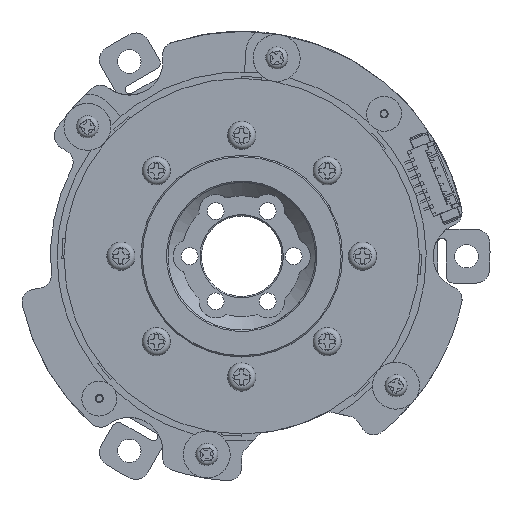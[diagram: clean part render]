
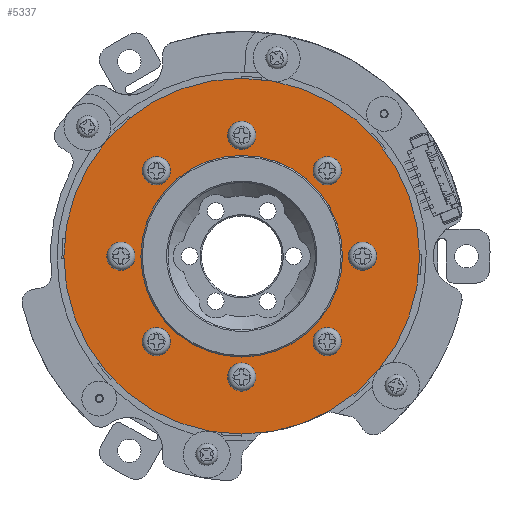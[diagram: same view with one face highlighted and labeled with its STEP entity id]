
A CAD part, left-side view. The second image highlights one B-rep face of the part: STEP entity #5337.
In plain terms, the highlighted planar face has unit normal (-1, 0, 0).
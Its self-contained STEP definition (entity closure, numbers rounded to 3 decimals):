
#5337=ADVANCED_FACE('',(#9458,#9459,#9460,#9461,#9462,#9463,#9464,#9465,
#9466,#9467),#6679,.T.);
#6679=PLANE('',#42326);
#7875=CIRCLE('',#42315,1.5);
#7876=CIRCLE('',#42317,26.5);
#7877=CIRCLE('',#42318,1.5);
#7878=CIRCLE('',#42319,1.5);
#7879=CIRCLE('',#42320,1.5);
#7880=CIRCLE('',#42321,1.5);
#7881=CIRCLE('',#42322,1.5);
#7882=CIRCLE('',#42323,1.5);
#7883=CIRCLE('',#42324,1.5);
#7884=CIRCLE('',#42325,15.02);
#9458=FACE_BOUND('',#11983,.T.);
#9459=FACE_BOUND('',#11984,.T.);
#9460=FACE_BOUND('',#11985,.T.);
#9461=FACE_BOUND('',#11986,.T.);
#9462=FACE_BOUND('',#11987,.T.);
#9463=FACE_BOUND('',#11988,.T.);
#9464=FACE_BOUND('',#11989,.T.);
#9465=FACE_BOUND('',#11990,.T.);
#9466=FACE_BOUND('',#11991,.T.);
#9467=FACE_BOUND('',#11992,.T.);
#11983=EDGE_LOOP('',(#22169));
#11984=EDGE_LOOP('',(#22170));
#11985=EDGE_LOOP('',(#22171));
#11986=EDGE_LOOP('',(#22172));
#11987=EDGE_LOOP('',(#22173));
#11988=EDGE_LOOP('',(#22174));
#11989=EDGE_LOOP('',(#22175));
#11990=EDGE_LOOP('',(#22176));
#11991=EDGE_LOOP('',(#22177));
#11992=EDGE_LOOP('',(#22178));
#22169=ORIENTED_EDGE('',*,*,#31874,.T.);
#22170=ORIENTED_EDGE('',*,*,#31875,.T.);
#22171=ORIENTED_EDGE('',*,*,#31876,.T.);
#22172=ORIENTED_EDGE('',*,*,#31877,.T.);
#22173=ORIENTED_EDGE('',*,*,#31878,.T.);
#22174=ORIENTED_EDGE('',*,*,#31879,.T.);
#22175=ORIENTED_EDGE('',*,*,#31880,.T.);
#22176=ORIENTED_EDGE('',*,*,#31881,.T.);
#22177=ORIENTED_EDGE('',*,*,#31873,.T.);
#22178=ORIENTED_EDGE('',*,*,#31882,.T.);
#26553=VERTEX_POINT('',#72578);
#26554=VERTEX_POINT('',#72581);
#26555=VERTEX_POINT('',#72583);
#26556=VERTEX_POINT('',#72585);
#26557=VERTEX_POINT('',#72587);
#26558=VERTEX_POINT('',#72589);
#26559=VERTEX_POINT('',#72591);
#26560=VERTEX_POINT('',#72593);
#26561=VERTEX_POINT('',#72595);
#26562=VERTEX_POINT('',#72597);
#31873=EDGE_CURVE('',#26553,#26553,#7875,.T.);
#31874=EDGE_CURVE('',#26554,#26554,#7876,.T.);
#31875=EDGE_CURVE('',#26555,#26555,#7877,.T.);
#31876=EDGE_CURVE('',#26556,#26556,#7878,.T.);
#31877=EDGE_CURVE('',#26557,#26557,#7879,.T.);
#31878=EDGE_CURVE('',#26558,#26558,#7880,.T.);
#31879=EDGE_CURVE('',#26559,#26559,#7881,.T.);
#31880=EDGE_CURVE('',#26560,#26560,#7882,.T.);
#31881=EDGE_CURVE('',#26561,#26561,#7883,.T.);
#31882=EDGE_CURVE('',#26562,#26562,#7884,.T.);
#42315=AXIS2_PLACEMENT_3D('',#72577,#51764,#51765);
#42317=AXIS2_PLACEMENT_3D('',#72580,#51768,#51769);
#42318=AXIS2_PLACEMENT_3D('',#72582,#51770,#51771);
#42319=AXIS2_PLACEMENT_3D('',#72584,#51772,#51773);
#42320=AXIS2_PLACEMENT_3D('',#72586,#51774,#51775);
#42321=AXIS2_PLACEMENT_3D('',#72588,#51776,#51777);
#42322=AXIS2_PLACEMENT_3D('',#72590,#51778,#51779);
#42323=AXIS2_PLACEMENT_3D('',#72592,#51780,#51781);
#42324=AXIS2_PLACEMENT_3D('',#72594,#51782,#51783);
#42325=AXIS2_PLACEMENT_3D('',#72596,#51784,#51785);
#42326=AXIS2_PLACEMENT_3D('',#72598,#51786,#51787);
#51764=DIRECTION('',(1.,0.,0.));
#51765=DIRECTION('',(0.,0.,-1.));
#51768=DIRECTION('',(-1.,0.,0.));
#51769=DIRECTION('',(0.,0.,1.));
#51770=DIRECTION('',(1.,0.,0.));
#51771=DIRECTION('',(0.,0.,1.));
#51772=DIRECTION('',(1.,0.,0.));
#51773=DIRECTION('',(0.,0.,1.));
#51774=DIRECTION('',(1.,0.,0.));
#51775=DIRECTION('',(0.,0.,1.));
#51776=DIRECTION('',(1.,0.,0.));
#51777=DIRECTION('',(0.,0.,1.));
#51778=DIRECTION('',(1.,0.,0.));
#51779=DIRECTION('',(0.,0.,1.));
#51780=DIRECTION('',(1.,0.,0.));
#51781=DIRECTION('',(0.,0.,1.));
#51782=DIRECTION('',(1.,0.,0.));
#51783=DIRECTION('',(0.,0.,1.));
#51784=DIRECTION('',(1.,0.,0.));
#51785=DIRECTION('',(0.,0.,-1.));
#51786=DIRECTION('',(-1.,0.,0.));
#51787=DIRECTION('',(0.,0.,-1.));
#72577=CARTESIAN_POINT('',(-15.4,-18.,0.));
#72578=CARTESIAN_POINT('',(-15.4,-18.,-1.5));
#72580=CARTESIAN_POINT('',(-15.4,0.,0.));
#72581=CARTESIAN_POINT('',(-15.4,0.,26.5));
#72582=CARTESIAN_POINT('',(-15.4,-12.728,12.728));
#72583=CARTESIAN_POINT('',(-15.4,-12.728,14.228));
#72584=CARTESIAN_POINT('',(-15.4,0.,18.));
#72585=CARTESIAN_POINT('',(-15.4,0.,19.5));
#72586=CARTESIAN_POINT('',(-15.4,12.728,12.728));
#72587=CARTESIAN_POINT('',(-15.4,12.728,14.228));
#72588=CARTESIAN_POINT('',(-15.4,18.,0.));
#72589=CARTESIAN_POINT('',(-15.4,18.,1.5));
#72590=CARTESIAN_POINT('',(-15.4,12.728,-12.728));
#72591=CARTESIAN_POINT('',(-15.4,12.728,-11.228));
#72592=CARTESIAN_POINT('',(-15.4,-12.728,-12.728));
#72593=CARTESIAN_POINT('',(-15.4,-12.728,-11.228));
#72594=CARTESIAN_POINT('',(-15.4,0.,-18.));
#72595=CARTESIAN_POINT('',(-15.4,0.,-16.5));
#72596=CARTESIAN_POINT('',(-15.4,0.,0.));
#72597=CARTESIAN_POINT('',(-15.4,0.,-15.02));
#72598=CARTESIAN_POINT('',(-15.4,0.,0.));
